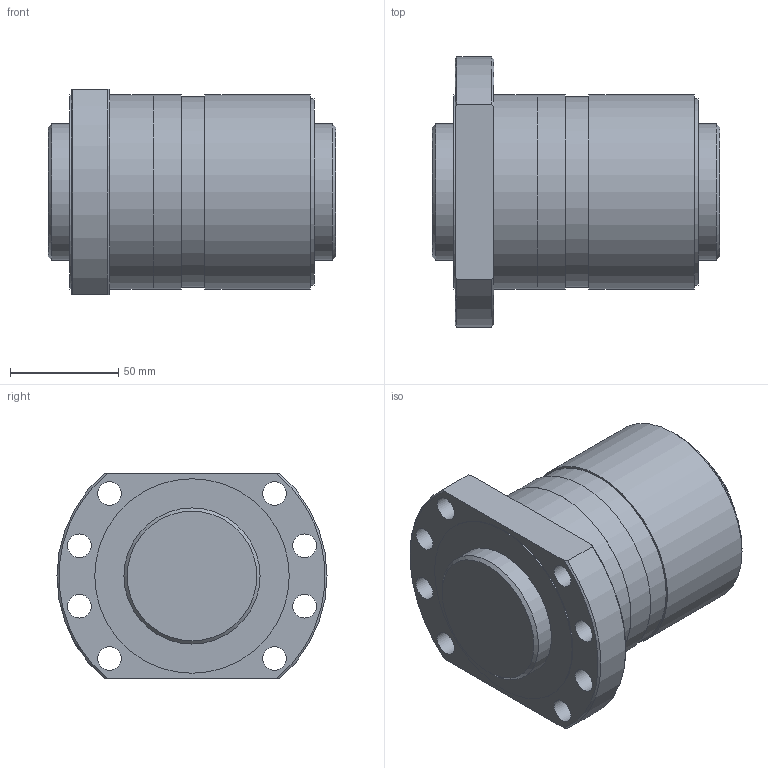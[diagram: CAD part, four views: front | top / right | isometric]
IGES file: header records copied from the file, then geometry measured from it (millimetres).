
Start section: Data from Parasolid IGES Translator 26.0.171, Copyright(c) 2006 Siemens PLM Software. All Rights Reserved.
Global section: file name: SDAN6310VX-4G0+133LC0(0G000).igs; native system: By Siemens PLM Incorporated; preprocessor: XPlus GENERIC/IGES 26.0.171; author: Noname; organization: Noname; date: 20240704.102247; units: millimetre
Bounding box: 133 x 125 x 95 mm (x, y, z)
Surface area: 108015.4 mm2 (no closed solid volume)
Topology: 0 solids, 0 shells, 39 faces, 166 edges, 130 vertices
Faces by surface type: revolution 26, extrusion 13
